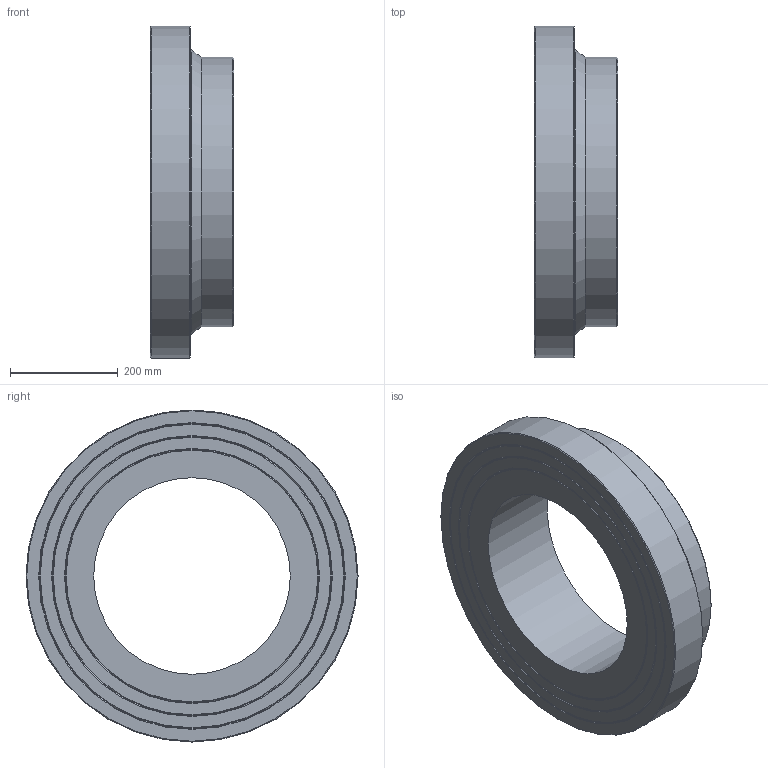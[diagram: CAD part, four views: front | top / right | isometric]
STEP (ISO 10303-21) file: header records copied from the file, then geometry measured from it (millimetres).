
FILE_DESCRIPTION(/* description */ ('Unknown'),/* implementation_level */ '2;1');
FILE_NAME(/* name */ 'CCP500H',/* time_stamp */ '2022-04-04T12:39:21+02:00',/* author */ ('Unknown'),/* organization */ ('Unknown'),/* preprocessor_version */ 'ST-DEVELOPER v18.1',/* originating_system */ 'Solid Edge',/* authorisation */ 'Unknown');
FILE_SCHEMA (('AUTOMOTIVE_DESIGN {1 0 10303 214 3 1 1}'));
Length unit declared in the file: millimetre
Products named in the file (1): CCP500H
Bounding box: 155 x 616 x 616 mm (x, y, z)
Volume: 21994901.2 mm3; surface area: 816603.3 mm2
Topology: 1 solids, 1 shells, 20 faces, 35 edges, 21 vertices
Faces by surface type: cone 10, plane 6, cylinder 3, torus 1
Full cylindrical faces by diameter (mm): 364.8 x1, 500 x1, 616 x1
Entity records: 438 total; most frequent: DIRECTION 82, CARTESIAN_POINT 61, AXIS2_PLACEMENT_3D 41, ORIENTED_EDGE 40, EDGE_LOOP 40, FACE_BOUND 40, EDGE_CURVE 20, VERTEX_POINT 20
